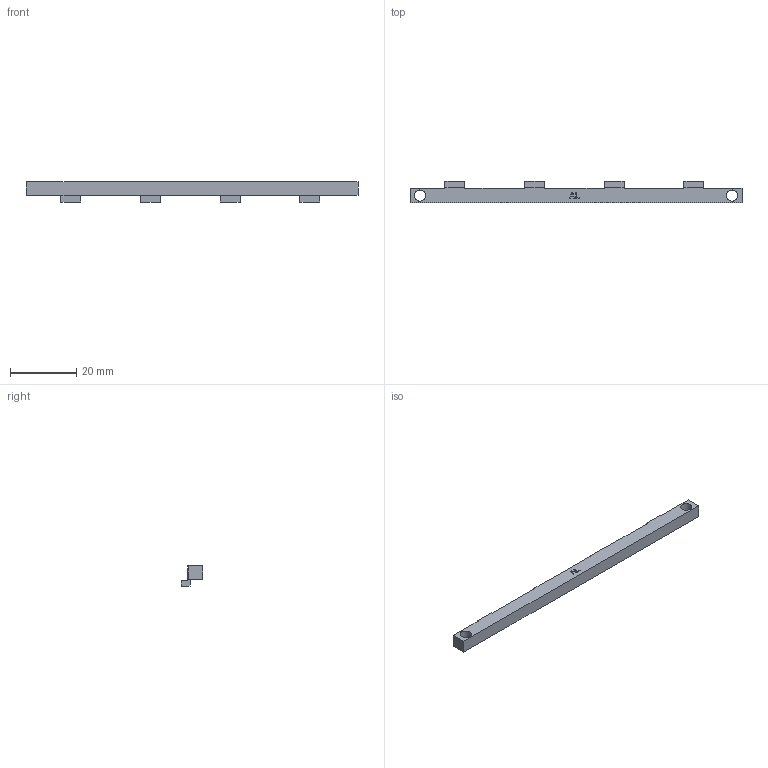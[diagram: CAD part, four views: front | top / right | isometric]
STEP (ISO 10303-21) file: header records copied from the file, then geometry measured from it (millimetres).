
FILE_DESCRIPTION(('Open CASCADE Model'),'2;1');
FILE_NAME('Open CASCADE Shape Model','2026-10-07T10:51:43',('Author'),( 'Open CASCADE'),'Open CASCADE STEP processor 7.8','Open CASCADE 7.8' ,'Unknown');
FILE_SCHEMA(('AUTOMOTIVE_DESIGN { 1 0 10303 214 1 1 1 1 }'));
Length unit declared in the file: millimetre
Products named in the file (1): Open CASCADE STEP translator 7.8 3
Bounding box: 100 x 6.6 x 6.1 mm (x, y, z)
Volume: 1817.7 mm3; surface area: 2023.2 mm2
Topology: 1 solids, 1 shells, 60 faces, 165 edges, 110 vertices
Faces by surface type: plane 58, cylinder 2
Full cylindrical faces by diameter (mm): 3.4 x2
Entity records: 3970 total; most frequent: CARTESIAN_POINT 732, DIRECTION 555, LINE 421, VECTOR 421, ORIENTED_EDGE 330, PCURVE 330, DEFINITIONAL_REPRESENTATION 330, EDGE_CURVE 165
